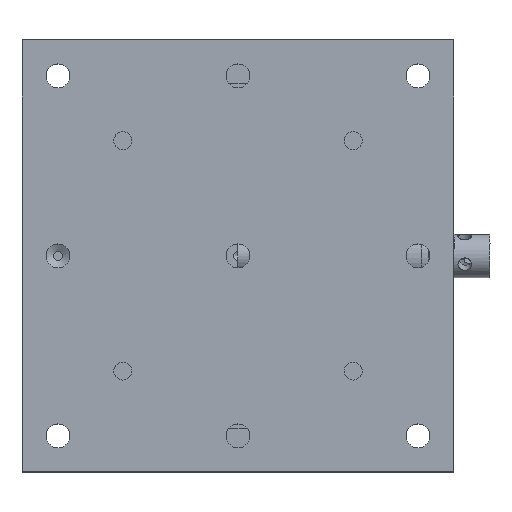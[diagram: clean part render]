
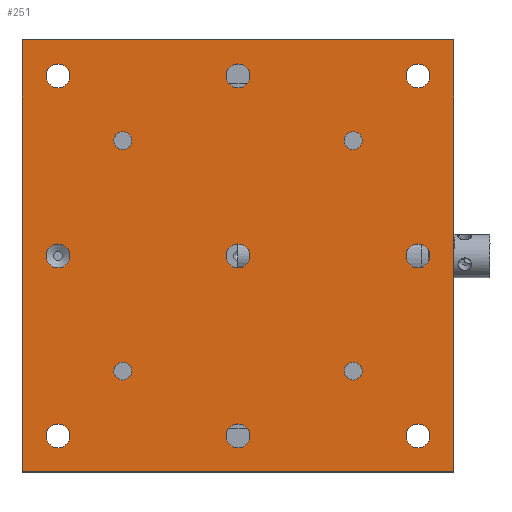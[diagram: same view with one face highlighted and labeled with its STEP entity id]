
A CAD part, top view. The second image highlights one B-rep face of the part: STEP entity #251.
In plain terms, the highlighted planar face has unit normal (0, 0, 1).
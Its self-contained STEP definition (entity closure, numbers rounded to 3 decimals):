
#251 = ADVANCED_FACE( '', ( #530, #531, #532, #533, #534, #535, #536, #537, #538, #539, #540, #541, #542, #543 ), #544, .T. );
#530 = FACE_BOUND( '', #894, .T. );
#531 = FACE_BOUND( '', #895, .T. );
#532 = FACE_BOUND( '', #896, .T. );
#533 = FACE_BOUND( '', #897, .T. );
#534 = FACE_BOUND( '', #898, .T. );
#535 = FACE_BOUND( '', #899, .T. );
#536 = FACE_BOUND( '', #900, .T. );
#537 = FACE_BOUND( '', #901, .T. );
#538 = FACE_BOUND( '', #902, .T. );
#539 = FACE_BOUND( '', #903, .T. );
#540 = FACE_BOUND( '', #904, .T. );
#541 = FACE_BOUND( '', #905, .T. );
#542 = FACE_BOUND( '', #906, .T. );
#543 = FACE_OUTER_BOUND( '', #907, .T. );
#544 = PLANE( '', #908 );
#894 = EDGE_LOOP( '', ( #1596 ) );
#895 = EDGE_LOOP( '', ( #1597 ) );
#896 = EDGE_LOOP( '', ( #1598 ) );
#897 = EDGE_LOOP( '', ( #1599 ) );
#898 = EDGE_LOOP( '', ( #1600 ) );
#899 = EDGE_LOOP( '', ( #1601 ) );
#900 = EDGE_LOOP( '', ( #1602 ) );
#901 = EDGE_LOOP( '', ( #1603 ) );
#902 = EDGE_LOOP( '', ( #1604 ) );
#903 = EDGE_LOOP( '', ( #1605 ) );
#904 = EDGE_LOOP( '', ( #1606 ) );
#905 = EDGE_LOOP( '', ( #1607 ) );
#906 = EDGE_LOOP( '', ( #1608 ) );
#907 = EDGE_LOOP( '', ( #1609, #1610, #1611, #1612 ) );
#908 = AXIS2_PLACEMENT_3D( '', #1613, #1614, #1615 );
#1596 = ORIENTED_EDGE( '', *, *, #2225, .T. );
#1597 = ORIENTED_EDGE( '', *, *, #2223, .T. );
#1598 = ORIENTED_EDGE( '', *, *, #2221, .T. );
#1599 = ORIENTED_EDGE( '', *, *, #2219, .T. );
#1600 = ORIENTED_EDGE( '', *, *, #2217, .T. );
#1601 = ORIENTED_EDGE( '', *, *, #2215, .T. );
#1602 = ORIENTED_EDGE( '', *, *, #2213, .T. );
#1603 = ORIENTED_EDGE( '', *, *, #2211, .T. );
#1604 = ORIENTED_EDGE( '', *, *, #2147, .T. );
#1605 = ORIENTED_EDGE( '', *, *, #2151, .T. );
#1606 = ORIENTED_EDGE( '', *, *, #2209, .T. );
#1607 = ORIENTED_EDGE( '', *, *, #2207, .T. );
#1608 = ORIENTED_EDGE( '', *, *, #2205, .T. );
#1609 = ORIENTED_EDGE( '', *, *, #2203, .F. );
#1610 = ORIENTED_EDGE( '', *, *, #2174, .F. );
#1611 = ORIENTED_EDGE( '', *, *, #2226, .F. );
#1612 = ORIENTED_EDGE( '', *, *, #2200, .F. );
#1613 = CARTESIAN_POINT( '', ( 0., 0., 21. ) );
#1614 = DIRECTION( '', ( 0., 0., 1. ) );
#1615 = DIRECTION( '', ( -1., 0., 0. ) );
#2147 = EDGE_CURVE( '', #2531, #2531, #2532, .T. );
#2151 = EDGE_CURVE( '', #2539, #2539, #2540, .T. );
#2174 = EDGE_CURVE( '', #2577, #2579, #2580, .T. );
#2200 = EDGE_CURVE( '', #2617, #2618, #2619, .T. );
#2203 = EDGE_CURVE( '', #2579, #2617, #2622, .T. );
#2205 = EDGE_CURVE( '', #2625, #2625, #2626, .T. );
#2207 = EDGE_CURVE( '', #2629, #2629, #2630, .T. );
#2209 = EDGE_CURVE( '', #2633, #2633, #2634, .T. );
#2211 = EDGE_CURVE( '', #2637, #2637, #2638, .T. );
#2213 = EDGE_CURVE( '', #2641, #2641, #2642, .T. );
#2215 = EDGE_CURVE( '', #2645, #2645, #2646, .T. );
#2217 = EDGE_CURVE( '', #2649, #2649, #2650, .T. );
#2219 = EDGE_CURVE( '', #2653, #2653, #2654, .T. );
#2221 = EDGE_CURVE( '', #2657, #2657, #2658, .T. );
#2223 = EDGE_CURVE( '', #2661, #2661, #2662, .T. );
#2225 = EDGE_CURVE( '', #2665, #2665, #2666, .T. );
#2226 = EDGE_CURVE( '', #2618, #2577, #2667, .T. );
#2531 = VERTEX_POINT( '', #3285 );
#2532 = CIRCLE( '', #3286, 1.65 );
#2539 = VERTEX_POINT( '', #3293 );
#2540 = CIRCLE( '', #3294, 1.65 );
#2577 = VERTEX_POINT( '', #3346 );
#2579 = VERTEX_POINT( '', #3349 );
#2580 = LINE( '', #3350, #3351 );
#2617 = VERTEX_POINT( '', #3406 );
#2618 = VERTEX_POINT( '', #3407 );
#2619 = LINE( '', #3408, #3409 );
#2622 = LINE( '', #3414, #3415 );
#2625 = VERTEX_POINT( '', #3418 );
#2626 = CIRCLE( '', #3419, 1.65 );
#2629 = VERTEX_POINT( '', #3422 );
#2630 = CIRCLE( '', #3423, 1.65 );
#2633 = VERTEX_POINT( '', #3426 );
#2634 = CIRCLE( '', #3427, 1.65 );
#2637 = VERTEX_POINT( '', #3430 );
#2638 = CIRCLE( '', #3431, 1.65 );
#2641 = VERTEX_POINT( '', #3434 );
#2642 = CIRCLE( '', #3435, 1.65 );
#2645 = VERTEX_POINT( '', #3438 );
#2646 = CIRCLE( '', #3439, 1.65 );
#2649 = VERTEX_POINT( '', #3442 );
#2650 = CIRCLE( '', #3443, 1.65 );
#2653 = VERTEX_POINT( '', #3446 );
#2654 = CIRCLE( '', #3447, 1.25 );
#2657 = VERTEX_POINT( '', #3450 );
#2658 = CIRCLE( '', #3451, 1.25 );
#2661 = VERTEX_POINT( '', #3454 );
#2662 = CIRCLE( '', #3455, 1.25 );
#2665 = VERTEX_POINT( '', #3458 );
#2666 = CIRCLE( '', #3459, 1.25 );
#2667 = LINE( '', #3460, #3461 );
#3285 = CARTESIAN_POINT( '', ( 0., 1.65, 21. ) );
#3286 = AXIS2_PLACEMENT_3D( '', #3955, #3956, #3957 );
#3293 = CARTESIAN_POINT( '', ( -25., 1.65, 21. ) );
#3294 = AXIS2_PLACEMENT_3D( '', #3967, #3968, #3969 );
#3346 = CARTESIAN_POINT( '', ( -30., -30., 21. ) );
#3349 = CARTESIAN_POINT( '', ( -30., 30., 21. ) );
#3350 = CARTESIAN_POINT( '', ( -30., 0., 21. ) );
#3351 = VECTOR( '', #4004, 1000. );
#3406 = CARTESIAN_POINT( '', ( 30., 30., 21. ) );
#3407 = CARTESIAN_POINT( '', ( 30., -30., 21. ) );
#3408 = CARTESIAN_POINT( '', ( 30., 0., 21. ) );
#3409 = VECTOR( '', #4044, 1000. );
#3414 = CARTESIAN_POINT( '', ( 0., 30., 21. ) );
#3415 = VECTOR( '', #4047, 1000. );
#3418 = CARTESIAN_POINT( '', ( 25., -23.35, 21. ) );
#3419 = AXIS2_PLACEMENT_3D( '', #4051, #4052, #4053 );
#3422 = CARTESIAN_POINT( '', ( 0., -23.35, 21. ) );
#3423 = AXIS2_PLACEMENT_3D( '', #4057, #4058, #4059 );
#3426 = CARTESIAN_POINT( '', ( -25., -23.35, 21. ) );
#3427 = AXIS2_PLACEMENT_3D( '', #4063, #4064, #4065 );
#3430 = CARTESIAN_POINT( '', ( 25., 1.65, 21. ) );
#3431 = AXIS2_PLACEMENT_3D( '', #4069, #4070, #4071 );
#3434 = CARTESIAN_POINT( '', ( 25., 26.65, 21. ) );
#3435 = AXIS2_PLACEMENT_3D( '', #4075, #4076, #4077 );
#3438 = CARTESIAN_POINT( '', ( 0., 26.65, 21. ) );
#3439 = AXIS2_PLACEMENT_3D( '', #4081, #4082, #4083 );
#3442 = CARTESIAN_POINT( '', ( -25., 26.65, 21. ) );
#3443 = AXIS2_PLACEMENT_3D( '', #4087, #4088, #4089 );
#3446 = CARTESIAN_POINT( '', ( 17.25, -16., 21. ) );
#3447 = AXIS2_PLACEMENT_3D( '', #4093, #4094, #4095 );
#3450 = CARTESIAN_POINT( '', ( -14.75, -16., 21. ) );
#3451 = AXIS2_PLACEMENT_3D( '', #4099, #4100, #4101 );
#3454 = CARTESIAN_POINT( '', ( -14.75, 16., 21. ) );
#3455 = AXIS2_PLACEMENT_3D( '', #4105, #4106, #4107 );
#3458 = CARTESIAN_POINT( '', ( 17.25, 16., 21. ) );
#3459 = AXIS2_PLACEMENT_3D( '', #4111, #4112, #4113 );
#3460 = CARTESIAN_POINT( '', ( 0., -30., 21. ) );
#3461 = VECTOR( '', #4114, 1000. );
#3955 = CARTESIAN_POINT( '', ( 0., 0., 21. ) );
#3956 = DIRECTION( '', ( 0., 0., -1. ) );
#3957 = DIRECTION( '', ( 0., 1., 0. ) );
#3967 = CARTESIAN_POINT( '', ( -25., 0., 21. ) );
#3968 = DIRECTION( '', ( 0., 0., -1. ) );
#3969 = DIRECTION( '', ( 0., 1., 0. ) );
#4004 = DIRECTION( '', ( 0., 1., 0. ) );
#4044 = DIRECTION( '', ( 0., -1., 0. ) );
#4047 = DIRECTION( '', ( 1., 0., 0. ) );
#4051 = CARTESIAN_POINT( '', ( 25., -25., 21. ) );
#4052 = DIRECTION( '', ( 0., 0., -1. ) );
#4053 = DIRECTION( '', ( 0., 1., 0. ) );
#4057 = CARTESIAN_POINT( '', ( 0., -25., 21. ) );
#4058 = DIRECTION( '', ( 0., 0., -1. ) );
#4059 = DIRECTION( '', ( 0., 1., 0. ) );
#4063 = CARTESIAN_POINT( '', ( -25., -25., 21. ) );
#4064 = DIRECTION( '', ( 0., 0., -1. ) );
#4065 = DIRECTION( '', ( 0., 1., 0. ) );
#4069 = CARTESIAN_POINT( '', ( 25., 0., 21. ) );
#4070 = DIRECTION( '', ( 0., 0., -1. ) );
#4071 = DIRECTION( '', ( 0., 1., 0. ) );
#4075 = CARTESIAN_POINT( '', ( 25., 25., 21. ) );
#4076 = DIRECTION( '', ( 0., 0., -1. ) );
#4077 = DIRECTION( '', ( 0., 1., 0. ) );
#4081 = CARTESIAN_POINT( '', ( 0., 25., 21. ) );
#4082 = DIRECTION( '', ( 0., 0., -1. ) );
#4083 = DIRECTION( '', ( 0., 1., 0. ) );
#4087 = CARTESIAN_POINT( '', ( -25., 25., 21. ) );
#4088 = DIRECTION( '', ( 0., 0., -1. ) );
#4089 = DIRECTION( '', ( 0., 1., 0. ) );
#4093 = CARTESIAN_POINT( '', ( 16., -16., 21. ) );
#4094 = DIRECTION( '', ( 0., 0., -1. ) );
#4095 = DIRECTION( '', ( 1., 0., 0. ) );
#4099 = CARTESIAN_POINT( '', ( -16., -16., 21. ) );
#4100 = DIRECTION( '', ( 0., 0., -1. ) );
#4101 = DIRECTION( '', ( 1., 0., 0. ) );
#4105 = CARTESIAN_POINT( '', ( -16., 16., 21. ) );
#4106 = DIRECTION( '', ( 0., 0., -1. ) );
#4107 = DIRECTION( '', ( 1., 0., 0. ) );
#4111 = CARTESIAN_POINT( '', ( 16., 16., 21. ) );
#4112 = DIRECTION( '', ( 0., 0., -1. ) );
#4113 = DIRECTION( '', ( 1., 0., 0. ) );
#4114 = DIRECTION( '', ( -1., 0., 0. ) );
